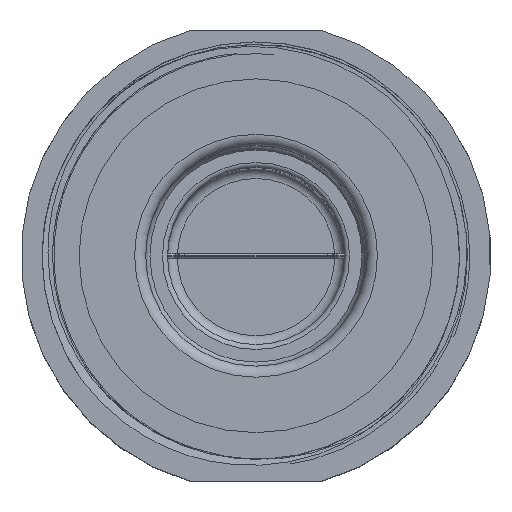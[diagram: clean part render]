
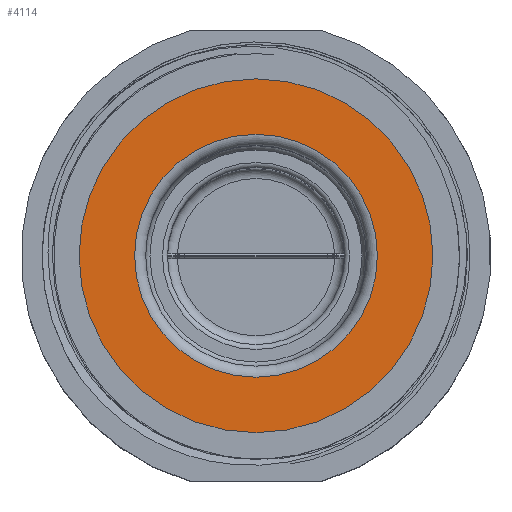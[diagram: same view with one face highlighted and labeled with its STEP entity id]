
A CAD part, top view. The second image highlights one B-rep face of the part: STEP entity #4114.
In plain terms, the highlighted planar face has unit normal (0, 0, 1).
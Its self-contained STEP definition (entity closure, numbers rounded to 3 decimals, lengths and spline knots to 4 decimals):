
#310=FACE_BOUND('',#1222,.T.);
#333=PLANE('',#4448);
#956=FACE_OUTER_BOUND('',#1221,.T.);
#1221=EDGE_LOOP('',(#2809));
#1222=EDGE_LOOP('',(#2810));
#1517=CIRCLE('',#4446,0.9695);
#1519=CIRCLE('',#4449,1.4124);
#1736=VERTEX_POINT('',#6144);
#1737=VERTEX_POINT('',#6148);
#2147=EDGE_CURVE('',#1736,#1736,#1517,.T.);
#2149=EDGE_CURVE('',#1737,#1737,#1519,.T.);
#2809=ORIENTED_EDGE('',*,*,#2149,.T.);
#2810=ORIENTED_EDGE('',*,*,#2147,.F.);
#4114=ADVANCED_FACE('',(#956,#310),#333,.T.);
#4446=AXIS2_PLACEMENT_3D('',#6145,#4960,#4961);
#4448=AXIS2_PLACEMENT_3D('',#6147,#4964,#4965);
#4449=AXIS2_PLACEMENT_3D('',#6149,#4966,#4967);
#4960=DIRECTION('center_axis',(0.,0.,1.));
#4961=DIRECTION('ref_axis',(1.,0.,0.));
#4964=DIRECTION('center_axis',(0.,0.,1.));
#4965=DIRECTION('ref_axis',(1.,0.,0.));
#4966=DIRECTION('center_axis',(0.,0.,1.));
#4967=DIRECTION('ref_axis',(1.,0.,0.));
#6144=CARTESIAN_POINT('',(0.9695,0.,0.));
#6145=CARTESIAN_POINT('Origin',(0.,0.,0.));
#6147=CARTESIAN_POINT('Origin',(0.,0.,0.));
#6148=CARTESIAN_POINT('',(-1.4124,0.,0.));
#6149=CARTESIAN_POINT('Origin',(0.,0.,0.));
